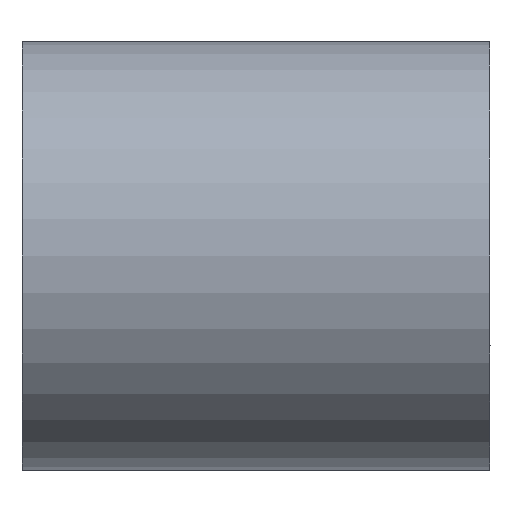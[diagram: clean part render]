
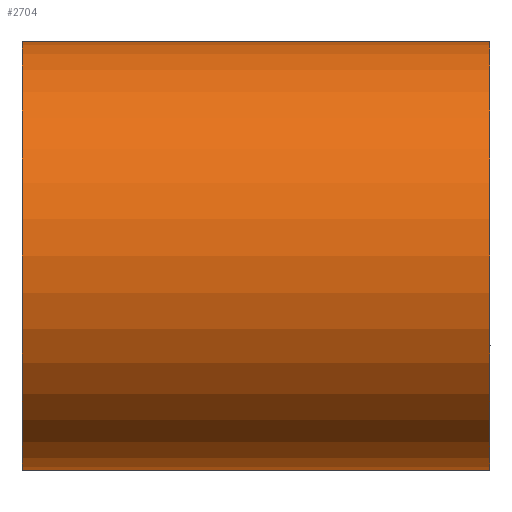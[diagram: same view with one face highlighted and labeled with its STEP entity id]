
A CAD part, left-side view. The second image highlights one B-rep face of the part: STEP entity #2704.
In plain terms, the highlighted cylindrical face has radius 2.75 mm (diameter 5.5 mm), a partial arc.
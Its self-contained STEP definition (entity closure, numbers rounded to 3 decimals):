
#380 = VECTOR ( 'NONE', #2416, 1000. ) ;
#385 = LINE ( 'NONE', #2414, #380 ) ;
#393 = CIRCLE ( 'NONE', #2523, 2.75 ) ;
#395 = VECTOR ( 'NONE', #2442, 1000. ) ;
#398 = LINE ( 'NONE', #2360, #395 ) ;
#401 = VERTEX_POINT ( 'NONE', #2480 ) ;
#440 = FACE_OUTER_BOUND ( 'NONE', #2660, .T. ) ;
#441 = CYLINDRICAL_SURFACE ( 'NONE', #2507, 2.75 ) ;
#447 = CIRCLE ( 'NONE', #2520, 2.75 ) ;
#506 = EDGE_CURVE ( 'NONE', #2670, #2664, #385, .T. ) ;
#512 = EDGE_CURVE ( 'NONE', #401, #2667, #398, .T. ) ;
#514 = EDGE_CURVE ( 'NONE', #2664, #2667, #393, .T. ) ;
#528 = EDGE_CURVE ( 'NONE', #2670, #401, #447, .T. ) ;
#1992 = DIRECTION ( 'NONE',  ( 0., 1., 0. ) ) ;
#1999 = DIRECTION ( 'NONE',  ( 0., 0., 1. ) ) ;
#2080 = CARTESIAN_POINT ( 'NONE',  ( 0., 0., 0. ) ) ;
#2253 = DIRECTION ( 'NONE',  ( 0., 0., 1. ) ) ;
#2254 = DIRECTION ( 'NONE',  ( 0., 1., 0. ) ) ;
#2258 = CARTESIAN_POINT ( 'NONE',  ( 0., 6., 0. ) ) ;
#2360 = CARTESIAN_POINT ( 'NONE',  ( 0., 6., 2.75 ) ) ;
#2414 = CARTESIAN_POINT ( 'NONE',  ( 0., 6., -2.75 ) ) ;
#2416 = DIRECTION ( 'NONE',  ( 0., -1., 0. ) ) ;
#2442 = DIRECTION ( 'NONE',  ( 0., -1., 0. ) ) ;
#2480 = CARTESIAN_POINT ( 'NONE',  ( 0., 6., 2.75 ) ) ;
#2507 = AXIS2_PLACEMENT_3D ( 'NONE', #3096, #3095, #3097 ) ;
#2520 = AXIS2_PLACEMENT_3D ( 'NONE', #2258, #2254, #2253 ) ;
#2523 = AXIS2_PLACEMENT_3D ( 'NONE', #2080, #1992, #1999 ) ;
#2576 = ORIENTED_EDGE ( 'NONE', *, *, #512, .F. ) ;
#2577 = ORIENTED_EDGE ( 'NONE', *, *, #528, .F. ) ;
#2578 = ORIENTED_EDGE ( 'NONE', *, *, #506, .T. ) ;
#2579 = ORIENTED_EDGE ( 'NONE', *, *, #514, .T. ) ;
#2660 = EDGE_LOOP ( 'NONE', ( #2576, #2577, #2578, #2579 ) ) ;
#2664 = VERTEX_POINT ( 'NONE', #3720 ) ;
#2667 = VERTEX_POINT ( 'NONE', #3687 ) ;
#2670 = VERTEX_POINT ( 'NONE', #3686 ) ;
#2704 = ADVANCED_FACE ( 'NONE', ( #440 ), #441, .T. ) ;
#3095 = DIRECTION ( 'NONE',  ( 0., -1., 0. ) ) ;
#3096 = CARTESIAN_POINT ( 'NONE',  ( 0., 6., 0. ) ) ;
#3097 = DIRECTION ( 'NONE',  ( 0., 0., -1. ) ) ;
#3686 = CARTESIAN_POINT ( 'NONE',  ( 0., 6., -2.75 ) ) ;
#3687 = CARTESIAN_POINT ( 'NONE',  ( 0., 0., 2.75 ) ) ;
#3720 = CARTESIAN_POINT ( 'NONE',  ( 0., 0., -2.75 ) ) ;
